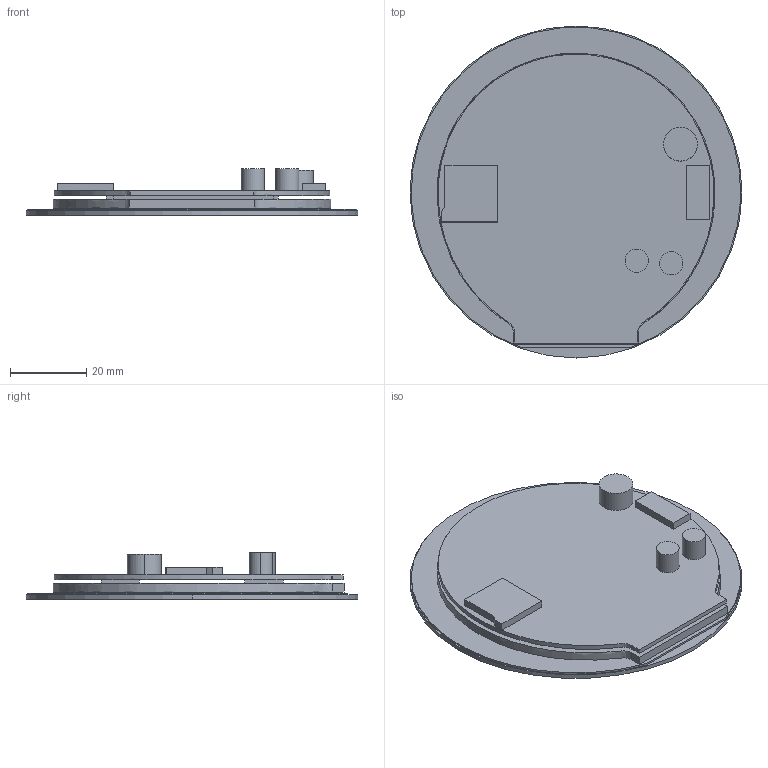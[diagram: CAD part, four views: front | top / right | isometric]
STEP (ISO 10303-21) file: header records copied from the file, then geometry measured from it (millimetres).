
FILE_DESCRIPTION((''),'2;1');
FILE_NAME('DMG48480C028-03WTC','2023-02-14T',('Administrator'),(''),'PRO/ENGINEER BY PARAMETRIC TECHNOLOGY CORPORATION, 2008380','PRO/ENGINEER BY PARAMETRIC TECHNOLOGY CORPORATION, 2008380','');
FILE_SCHEMA(('CONFIG_CONTROL_DESIGN'));
Products named in the file (1): DMG48480C028-03WTC
Bounding box: 87.28 x 87.28 x 12.15 mm (x, y, z)
Volume: 28055.6 mm3; surface area: 21733.1 mm2
Topology: 1 solids, 1 shells, 52 faces, 18622 edges, 26182 vertices
Faces by surface type: plane 39, cylinder 11, extrusion 2
Entity records: 161610 total; most frequent: DIRECTION 25083, CARTESIAN_POINT 19445, PRESENTATION_STYLE_ASSIGNMENT 18577, STYLED_ITEM 18577, CURVE_STYLE 18539, TRIMMED_CURVE 18500, VECTOR 12249, LINE 12247
